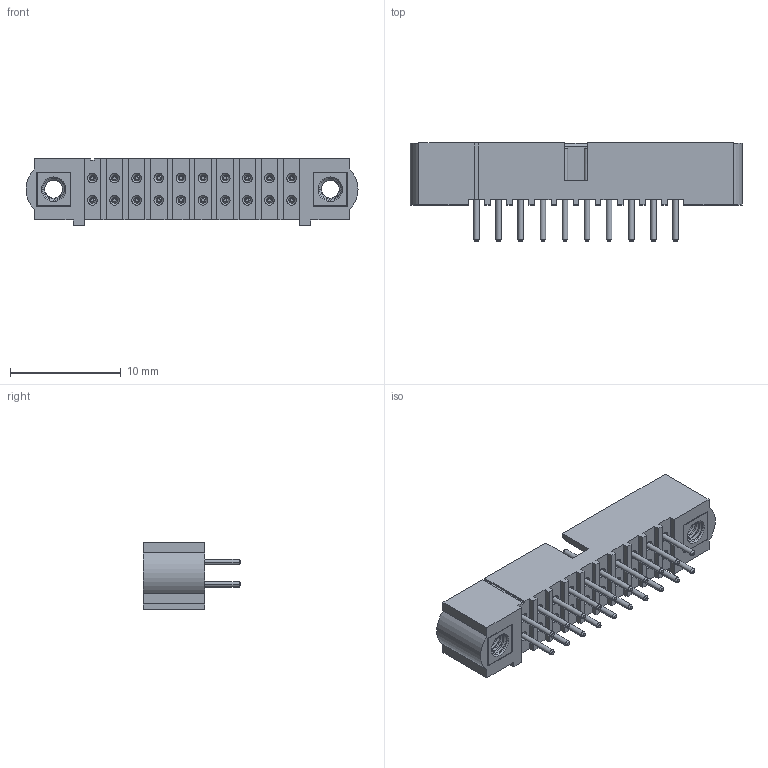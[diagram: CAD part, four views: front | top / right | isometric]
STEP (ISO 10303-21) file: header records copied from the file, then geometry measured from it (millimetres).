
FILE_DESCRIPTION((''),'2;1');
FILE_NAME('M80-5002022_ASM','2012-03-22T',('wbourne'),(''),'PRO/ENGINEER BY PARAMETRIC TECHNOLOGY CORPORATION, 2010280','PRO/ENGINEER BY PARAMETRIC TECHNOLOGY CORPORATION, 2010280','');
FILE_SCHEMA(('CONFIG_CONTROL_DESIGN','SHAPE_APPEARANCE_LAYERS_GROUPS'));
Length unit declared in the file: millimetre
Products named in the file (4): M80-2702098; M80-0200049; M80-210; M80-5002022_ASM
Assembly tree (23 placements, depth 2):
  M80-5002022_ASM
    M80-2702098
    M80-0200049  x20
    M80-210  x2
Bounding box: 30 x 8.85 x 6.05 mm (x, y, z)
Volume: 543.9 mm3; surface area: 1558.7 mm2
Topology: 23 solids, 25 shells, 757 faces, 1749 edges, 1066 vertices
Faces by surface type: plane 327, cylinder 190, cone 136, bspline 104
Entity records: 13848 total; most frequent: CARTESIAN_POINT 4954, DIRECTION 1367, ORIENTED_EDGE 1362, PRESENTATION_STYLE_ASSIGNMENT 692, STYLED_ITEM 687, CURVE_STYLE 683, EDGE_CURVE 683, AXIS2_PLACEMENT_3D 484
